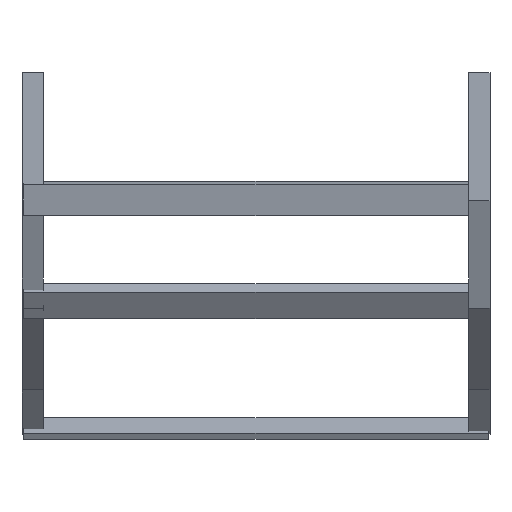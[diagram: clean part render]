
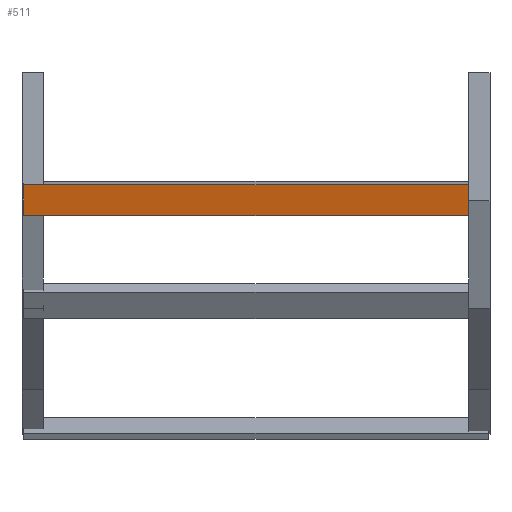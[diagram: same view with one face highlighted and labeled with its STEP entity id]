
A CAD part, front view. The second image highlights one B-rep face of the part: STEP entity #511.
In plain terms, the highlighted planar face has unit normal (0, -0.981, -0.195) as drawn and (0, -1, 0) by its records, which use the part's own axes.
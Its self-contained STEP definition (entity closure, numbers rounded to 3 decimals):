
#13 = AXIS2_PLACEMENT_3D ( 'NONE', #198, #781, #1489 ) ;
#19 = LINE ( 'NONE', #1864, #741 ) ;
#63 = LINE ( 'NONE', #796, #1686 ) ;
#128 = CARTESIAN_POINT ( 'NONE',  ( 298., 0., 20.25 ) ) ;
#189 = VECTOR ( 'NONE', #1611, 1000. ) ;
#198 = CARTESIAN_POINT ( 'NONE',  ( 298., 0., 20.25 ) ) ;
#362 = EDGE_LOOP ( 'NONE', ( #1381, #844, #428, #1763 ) ) ;
#395 = EDGE_CURVE ( 'NONE', #1099, #1534, #1441, .T. ) ;
#428 = ORIENTED_EDGE ( 'NONE', *, *, #1000, .F. ) ;
#483 = FACE_OUTER_BOUND ( 'NONE', #362, .T. ) ;
#511 = ADVANCED_FACE ( 'NONE', ( #483 ), #1069, .F. ) ;
#512 = CARTESIAN_POINT ( 'NONE',  ( 298., 0., 20.25 ) ) ;
#532 = VERTEX_POINT ( 'NONE', #644 ) ;
#554 = DIRECTION ( 'NONE',  ( 0., 0., -1. ) ) ;
#563 = CARTESIAN_POINT ( 'NONE',  ( 298., 0., 20.25 ) ) ;
#590 = CARTESIAN_POINT ( 'NONE',  ( -298., 0., 20.25 ) ) ;
#644 = CARTESIAN_POINT ( 'NONE',  ( 298., 0., -20.25 ) ) ;
#699 = DIRECTION ( 'NONE',  ( -1., 0., 0. ) ) ;
#709 = VECTOR ( 'NONE', #554, 1000. ) ;
#733 = EDGE_CURVE ( 'NONE', #532, #1502, #19, .T. ) ;
#741 = VECTOR ( 'NONE', #699, 1000. ) ;
#781 = DIRECTION ( 'NONE',  ( 0., 1., 0. ) ) ;
#796 = CARTESIAN_POINT ( 'NONE',  ( -298., 0., 20.25 ) ) ;
#844 = ORIENTED_EDGE ( 'NONE', *, *, #733, .F. ) ;
#1000 = EDGE_CURVE ( 'NONE', #1099, #532, #1707, .T. ) ;
#1035 = CARTESIAN_POINT ( 'NONE',  ( -298., 0., -20.25 ) ) ;
#1069 = PLANE ( 'NONE',  #13 ) ;
#1099 = VERTEX_POINT ( 'NONE', #563 ) ;
#1381 = ORIENTED_EDGE ( 'NONE', *, *, #1790, .T. ) ;
#1441 = LINE ( 'NONE', #128, #189 ) ;
#1489 = DIRECTION ( 'NONE',  ( 0., 0., 1. ) ) ;
#1502 = VERTEX_POINT ( 'NONE', #1035 ) ;
#1512 = DIRECTION ( 'NONE',  ( 0., 0., -1. ) ) ;
#1534 = VERTEX_POINT ( 'NONE', #590 ) ;
#1611 = DIRECTION ( 'NONE',  ( -1., 0., 0. ) ) ;
#1686 = VECTOR ( 'NONE', #1512, 1000. ) ;
#1707 = LINE ( 'NONE', #512, #709 ) ;
#1763 = ORIENTED_EDGE ( 'NONE', *, *, #395, .T. ) ;
#1790 = EDGE_CURVE ( 'NONE', #1534, #1502, #63, .T. ) ;
#1864 = CARTESIAN_POINT ( 'NONE',  ( 298., 0., -20.25 ) ) ;
